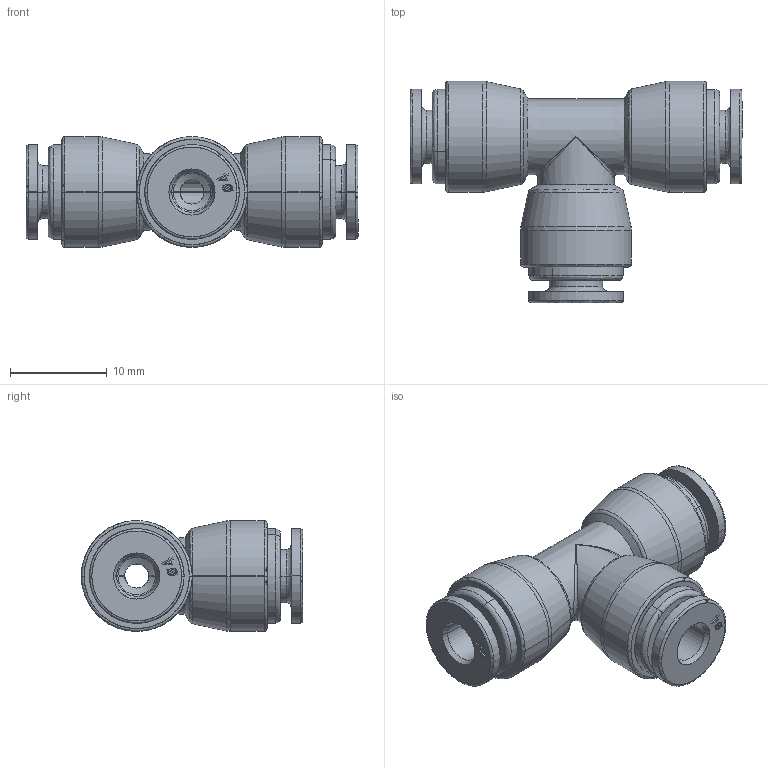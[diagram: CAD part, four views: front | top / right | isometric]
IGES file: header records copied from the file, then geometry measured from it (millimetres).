
Start section: SolidWorks IGES file using analytic representation for surfaces
Global section: file name: K:\Disegni Esecutivi\SERIE 53000\53000 Assiemi\53230\Iges\5323000002A.IGS; native system: SolidWorks 2020; preprocessor: SolidWorks 2020; author: cad06; date: 230306.134947; units: millimetre
Bounding box: 34.4 x 22.95 x 11.5 mm (x, y, z)
Surface area: 2621.7 mm2 (no closed solid volume)
Topology: 0 solids, 0 shells, 241 faces, 2322 edges, 2318 vertices
Faces by surface type: bspline 179, revolution 62
